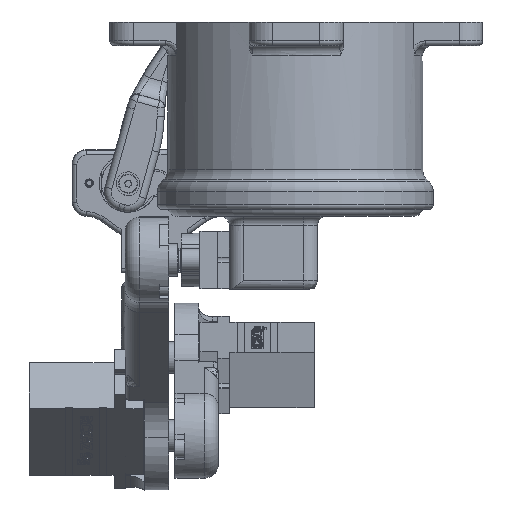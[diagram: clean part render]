
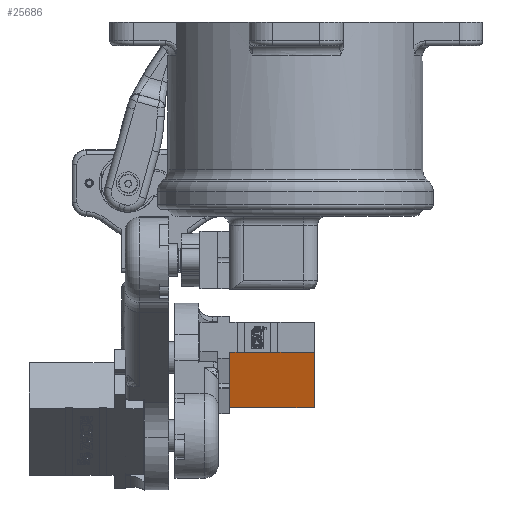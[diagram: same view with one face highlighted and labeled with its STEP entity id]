
A CAD part, left-side view. The second image highlights one B-rep face of the part: STEP entity #25686.
In plain terms, the highlighted planar face has unit normal (-0.961, 0, -0.276) as drawn and (-1, 0, 0) by its records, which use the part's own axes.
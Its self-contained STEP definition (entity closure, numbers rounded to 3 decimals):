
#7521=PLANE('',#28046);
#8521=FACE_OUTER_BOUND('',#9699,.T.);
#9699=EDGE_LOOP('',(#22694,#22695,#22696,#22697,#22698,#22699,#22700,#22701,
#22702,#22703,#22704,#22705));
#10891=LINE('',#44316,#12708);
#11125=LINE('',#45792,#12942);
#11126=LINE('',#45798,#12943);
#11132=LINE('',#45810,#12949);
#11134=LINE('',#45813,#12951);
#11136=LINE('',#45819,#12953);
#11141=LINE('',#45828,#12958);
#11143=LINE('',#45831,#12960);
#11144=LINE('',#45834,#12961);
#11145=LINE('',#45835,#12962);
#11146=LINE('',#45837,#12963);
#11147=LINE('',#45838,#12964);
#12708=VECTOR('',#33244,10.);
#12942=VECTOR('',#33604,10.);
#12943=VECTOR('',#33613,10.);
#12949=VECTOR('',#33621,10.);
#12951=VECTOR('',#33625,10.);
#12953=VECTOR('',#33629,10.);
#12958=VECTOR('',#33636,10.);
#12960=VECTOR('',#33640,10.);
#12961=VECTOR('',#33643,10.);
#12962=VECTOR('',#33644,10.);
#12963=VECTOR('',#33645,10.);
#12964=VECTOR('',#33646,10.);
#14950=VERTEX_POINT('',#44313);
#14951=VERTEX_POINT('',#44315);
#15183=VERTEX_POINT('',#45785);
#15186=VERTEX_POINT('',#45790);
#15187=VERTEX_POINT('',#45797);
#15190=VERTEX_POINT('',#45804);
#15192=VERTEX_POINT('',#45808);
#15193=VERTEX_POINT('',#45815);
#15195=VERTEX_POINT('',#45818);
#15198=VERTEX_POINT('',#45826);
#15199=VERTEX_POINT('',#45833);
#15200=VERTEX_POINT('',#45836);
#17442=EDGE_CURVE('',#14950,#14951,#10891,.T.);
#17794=EDGE_CURVE('',#15186,#15183,#11125,.T.);
#17795=EDGE_CURVE('',#15187,#15183,#11126,.T.);
#17801=EDGE_CURVE('',#15190,#15192,#11132,.T.);
#17803=EDGE_CURVE('',#15192,#15187,#11134,.T.);
#17805=EDGE_CURVE('',#15195,#15193,#11136,.T.);
#17810=EDGE_CURVE('',#15186,#15198,#11141,.T.);
#17812=EDGE_CURVE('',#15198,#15195,#11143,.T.);
#17813=EDGE_CURVE('',#15199,#15193,#11144,.T.);
#17814=EDGE_CURVE('',#15199,#14951,#11145,.T.);
#17815=EDGE_CURVE('',#15200,#14950,#11146,.T.);
#17816=EDGE_CURVE('',#15190,#15200,#11147,.T.);
#22694=ORIENTED_EDGE('',*,*,#17801,.T.);
#22695=ORIENTED_EDGE('',*,*,#17803,.T.);
#22696=ORIENTED_EDGE('',*,*,#17795,.T.);
#22697=ORIENTED_EDGE('',*,*,#17794,.F.);
#22698=ORIENTED_EDGE('',*,*,#17810,.T.);
#22699=ORIENTED_EDGE('',*,*,#17812,.T.);
#22700=ORIENTED_EDGE('',*,*,#17805,.T.);
#22701=ORIENTED_EDGE('',*,*,#17813,.F.);
#22702=ORIENTED_EDGE('',*,*,#17814,.T.);
#22703=ORIENTED_EDGE('',*,*,#17442,.F.);
#22704=ORIENTED_EDGE('',*,*,#17815,.F.);
#22705=ORIENTED_EDGE('',*,*,#17816,.F.);
#25686=ADVANCED_FACE('',(#8521),#7521,.T.);
#28046=AXIS2_PLACEMENT_3D('',#45832,#33641,#33642);
#33244=DIRECTION('',(0.,1.,0.));
#33604=DIRECTION('',(0.,-1.,0.));
#33613=DIRECTION('',(0.,0.,1.));
#33621=DIRECTION('',(0.,0.,-1.));
#33625=DIRECTION('',(0.,1.,0.));
#33629=DIRECTION('',(0.,0.,1.));
#33636=DIRECTION('',(0.,0.,-1.));
#33640=DIRECTION('',(0.,1.,0.));
#33641=DIRECTION('center_axis',(-1.,0.,0.));
#33642=DIRECTION('ref_axis',(0.,0.,1.));
#33643=DIRECTION('',(0.,-1.,0.));
#33644=DIRECTION('',(0.,0.,-1.));
#33645=DIRECTION('',(0.,0.,-1.));
#33646=DIRECTION('',(0.,-1.,0.));
#44313=CARTESIAN_POINT('',(-17.15,-27.9,-6.1));
#44315=CARTESIAN_POINT('',(-17.15,-9.9,-6.1));
#44316=CARTESIAN_POINT('',(-17.15,-18.9,-6.1));
#45785=CARTESIAN_POINT('',(-17.15,-18.729,6.1));
#45790=CARTESIAN_POINT('',(-17.15,-13.085,6.1));
#45792=CARTESIAN_POINT('',(-17.15,-18.9,6.1));
#45797=CARTESIAN_POINT('',(-17.15,-18.729,6.));
#45798=CARTESIAN_POINT('',(-17.15,-18.729,-0.075));
#45804=CARTESIAN_POINT('',(-17.15,-20.229,6.1));
#45808=CARTESIAN_POINT('',(-17.15,-20.229,6.));
#45810=CARTESIAN_POINT('',(-17.15,-20.229,-0.075));
#45813=CARTESIAN_POINT('',(-17.15,-20.99,6.));
#45815=CARTESIAN_POINT('',(-17.15,-11.585,6.1));
#45818=CARTESIAN_POINT('',(-17.15,-11.585,6.));
#45819=CARTESIAN_POINT('',(-17.15,-11.585,-0.075));
#45826=CARTESIAN_POINT('',(-17.15,-13.085,6.));
#45828=CARTESIAN_POINT('',(-17.15,-13.085,-0.075));
#45831=CARTESIAN_POINT('',(-17.15,-17.417,6.));
#45832=CARTESIAN_POINT('Origin',(-17.15,-22.5,-6.25));
#45833=CARTESIAN_POINT('',(-17.15,-9.9,6.1));
#45834=CARTESIAN_POINT('',(-17.15,-18.9,6.1));
#45835=CARTESIAN_POINT('',(-17.15,-9.9,-6.1));
#45836=CARTESIAN_POINT('',(-17.15,-27.9,6.1));
#45837=CARTESIAN_POINT('',(-17.15,-27.9,6.1));
#45838=CARTESIAN_POINT('',(-17.15,-18.9,6.1));
